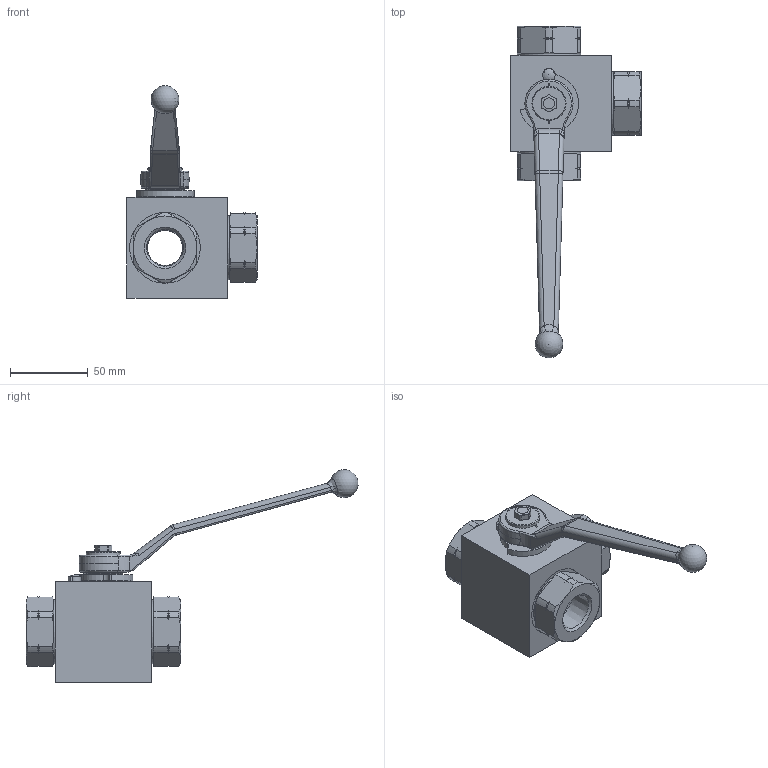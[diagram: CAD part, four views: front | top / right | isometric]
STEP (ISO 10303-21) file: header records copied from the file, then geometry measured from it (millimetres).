
FILE_DESCRIPTION( ( 'Unknown' ), '1' );
FILE_NAME( 'H:/PISTER/3D-MODELLE/BK3-Edelstahl stp/BK3-Edelst DN20 3_4 NPT.stp', 'Unknown', ( 'Unknown' ), ( 'Unknown' ), 'PSStep 14.0', 'Unknown', ' ' );
FILE_SCHEMA( ( 'AUTOMOTIVE_DESIGN { 1 0 10303 214 1 1 1 1 }' ) );
Length unit declared in the file: millimetre
Products named in the file (12): Assem1; 58-28740-10-oa0; 10-025-001-oa2; 56-032-073-oa3; 09-14-002; 58-0440-007; 06-020-003-oa7; 04-020-036-oa8; 04-020-036-oa9; 03-020-003-oa11; Griff_SW14; 01-020-040-oa12
Assembly tree (11 placements, depth 2):
  Assem1
    58-28740-10-oa0
    10-025-001-oa2
    56-032-073-oa3
    09-14-002
    58-0440-007
    06-020-003-oa7
    04-020-036-oa8
    04-020-036-oa9
    03-020-003-oa11
    Griff_SW14
    01-020-040-oa12
Bounding box: 83.8 x 213.73 x 136.9 mm (x, y, z)
Volume: 253997.3 mm3; surface area: 68588.9 mm2
Topology: 11 solids, 11 shells, 399 faces, 1045 edges, 666 vertices
Faces by surface type: cylinder 120, plane 109, cone 100, torus 35, bspline 32, sphere 3
Full cylindrical faces by diameter (mm): 5 x1, 6 x1, 6.6 x1, 7.98 x1, 20 x3, 20.2 x1, 22 x1, 22.68 x3, 25 x1, 31 x1, 34.3 x1, 36.376 x1, 36.5 x1, 38 x1, 38.3 x1, 40 x1, 41 x3, 45.5 x3
Entity records: 17639 total; most frequent: CARTESIAN_POINT 5331, ORIENTED_EDGE 1888, DIRECTION 1753, EDGE_CURVE 944, AXIS2_PLACEMENT_3D 739, VERTEX_POINT 631, EDGE_LOOP 483, FACE_OUTER_BOUND 433
